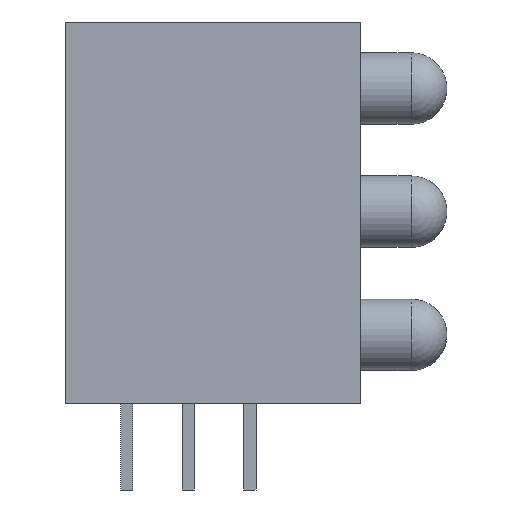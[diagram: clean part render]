
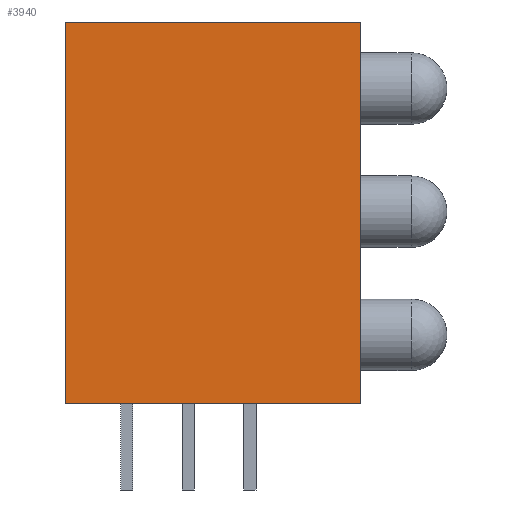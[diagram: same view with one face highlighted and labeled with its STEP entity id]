
A CAD part, left-side view. The second image highlights one B-rep face of the part: STEP entity #3940.
In plain terms, the highlighted planar face has unit normal (-1, 0, 0).
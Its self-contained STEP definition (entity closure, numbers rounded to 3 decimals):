
#2322=PLANE('',#8049);
#2915=LINE('',#10164,#3496);
#2916=LINE('',#10166,#3497);
#2917=LINE('',#10168,#3498);
#2918=LINE('',#10170,#3499);
#3496=VECTOR('',#8516,1.);
#3497=VECTOR('',#8519,1.);
#3498=VECTOR('',#8520,1.);
#3499=VECTOR('',#8521,1.);
#3940=ADVANCED_FACE('',(#4254),#2322,.F.);
#4254=FACE_OUTER_BOUND('',#4574,.T.);
#4574=EDGE_LOOP('',(#5147,#5148,#5149,#5150));
#5147=ORIENTED_EDGE('',*,*,#7367,.T.);
#5148=ORIENTED_EDGE('',*,*,#7368,.F.);
#5149=ORIENTED_EDGE('',*,*,#7369,.F.);
#5150=ORIENTED_EDGE('',*,*,#7366,.T.);
#6796=VERTEX_POINT('',#10159);
#6798=VERTEX_POINT('',#10163);
#6799=VERTEX_POINT('',#10167);
#6800=VERTEX_POINT('',#10169);
#7366=EDGE_CURVE('',#6796,#6798,#2915,.T.);
#7367=EDGE_CURVE('',#6798,#6799,#2916,.T.);
#7368=EDGE_CURVE('',#6800,#6799,#2917,.T.);
#7369=EDGE_CURVE('',#6796,#6800,#2918,.T.);
#8049=AXIS2_PLACEMENT_3D('',#10171,#8522,#8523);
#8516=DIRECTION('',(0.,0.,-1.));
#8519=DIRECTION('',(0.,-1.,0.));
#8520=DIRECTION('',(0.,0.,-1.));
#8521=DIRECTION('',(0.,-1.,0.));
#8522=DIRECTION('',(1.,0.,0.));
#8523=DIRECTION('',(0.,-1.,0.));
#10159=CARTESIAN_POINT('',(-2.255,5.038,15.5));
#10163=CARTESIAN_POINT('',(-2.255,5.038,0.));
#10164=CARTESIAN_POINT('',(-2.255,5.038,15.5));
#10166=CARTESIAN_POINT('',(-2.255,5.038,0.));
#10167=CARTESIAN_POINT('',(-2.255,-6.962,0.));
#10168=CARTESIAN_POINT('',(-2.255,-6.962,15.5));
#10169=CARTESIAN_POINT('',(-2.255,-6.962,15.5));
#10170=CARTESIAN_POINT('',(-2.255,5.038,15.5));
#10171=CARTESIAN_POINT('',(-2.255,5.038,15.5));
